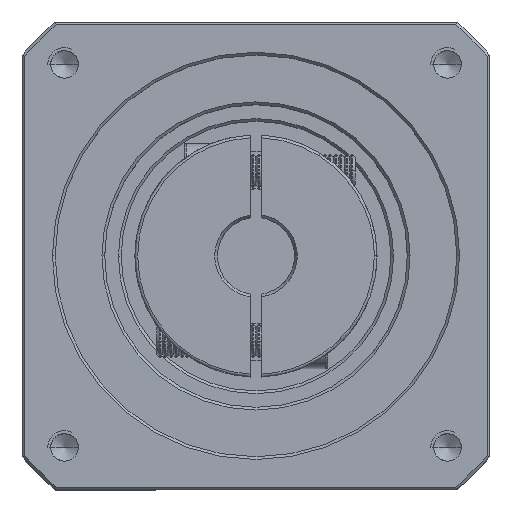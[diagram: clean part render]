
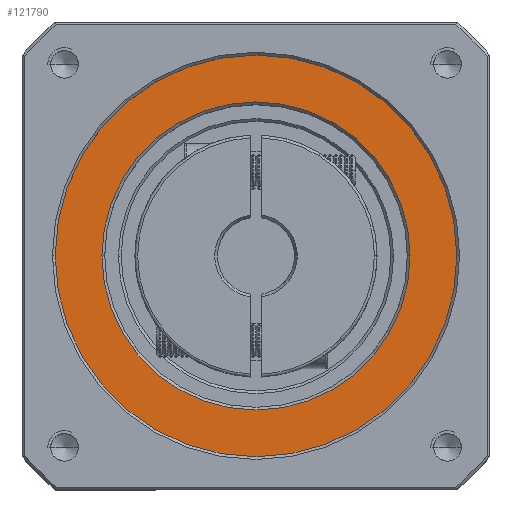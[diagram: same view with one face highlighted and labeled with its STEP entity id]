
A CAD part, top view. The second image highlights one B-rep face of the part: STEP entity #121790.
In plain terms, the highlighted planar face has unit normal (0, 0, 1).
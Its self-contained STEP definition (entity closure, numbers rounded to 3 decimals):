
#293 = CIRCLE ( 'NONE', #24646, 36.5 ) ;
#2892 = CARTESIAN_POINT ( 'NONE',  ( -95.807, 41.931, 45.967 ) ) ;
#7976 = VERTEX_POINT ( 'NONE', #29941 ) ;
#12341 = VERTEX_POINT ( 'NONE', #117105 ) ;
#12843 = DIRECTION ( 'NONE',  ( 0., 0., -1. ) ) ;
#12889 = DIRECTION ( 'NONE',  ( 1., 0., 0. ) ) ;
#15908 = AXIS2_PLACEMENT_3D ( 'NONE', #22276, #91034, #32223 ) ;
#16465 = CARTESIAN_POINT ( 'NONE',  ( -95.807, 41.931, 45.967 ) ) ;
#22276 = CARTESIAN_POINT ( 'NONE',  ( -95.807, 41.931, 45.967 ) ) ;
#22383 = FACE_BOUND ( 'NONE', #89790, .T. ) ;
#24135 = EDGE_CURVE ( 'NONE', #28292, #7976, #28439, .T. ) ;
#24646 = AXIS2_PLACEMENT_3D ( 'NONE', #2892, #71898, #12889 ) ;
#26420 = DIRECTION ( 'NONE',  ( 1., 0., 0. ) ) ;
#27262 = EDGE_CURVE ( 'NONE', #7976, #28292, #293, .T. ) ;
#28292 = VERTEX_POINT ( 'NONE', #57931 ) ;
#28439 = CIRCLE ( 'NONE', #15908, 36.5 ) ;
#29941 = CARTESIAN_POINT ( 'NONE',  ( -132.307, 41.931, 45.967 ) ) ;
#31341 = ORIENTED_EDGE ( 'NONE', *, *, #61083, .T. ) ;
#32223 = DIRECTION ( 'NONE',  ( 1., 0., 0. ) ) ;
#32491 = AXIS2_PLACEMENT_3D ( 'NONE', #16465, #85269, #26420 ) ;
#33494 = EDGE_LOOP ( 'NONE', ( #84644, #78672 ) ) ;
#48386 = CARTESIAN_POINT ( 'NONE',  ( -95.807, 41.931, 45.967 ) ) ;
#50320 = AXIS2_PLACEMENT_3D ( 'NONE', #48386, #116782, #58223 ) ;
#54007 = VERTEX_POINT ( 'NONE', #57474 ) ;
#57474 = CARTESIAN_POINT ( 'NONE',  ( -123.807, 41.931, 45.967 ) ) ;
#57931 = CARTESIAN_POINT ( 'NONE',  ( -59.307, 41.931, 45.967 ) ) ;
#58223 = DIRECTION ( 'NONE',  ( 1., 0., 0. ) ) ;
#61083 = EDGE_CURVE ( 'NONE', #12341, #54007, #118058, .T. ) ;
#61856 = EDGE_CURVE ( 'NONE', #54007, #12341, #124101, .T. ) ;
#71853 = CARTESIAN_POINT ( 'NONE',  ( -95.807, 41.931, 45.967 ) ) ;
#71898 = DIRECTION ( 'NONE',  ( 0., 0., 1. ) ) ;
#74716 = FACE_OUTER_BOUND ( 'NONE', #33494, .T. ) ;
#78672 = ORIENTED_EDGE ( 'NONE', *, *, #27262, .T. ) ;
#81671 = DIRECTION ( 'NONE',  ( 1., 0., 0. ) ) ;
#81858 = ORIENTED_EDGE ( 'NONE', *, *, #61856, .T. ) ;
#84644 = ORIENTED_EDGE ( 'NONE', *, *, #24135, .T. ) ;
#85269 = DIRECTION ( 'NONE',  ( 0., 0., -1. ) ) ;
#88301 = AXIS2_PLACEMENT_3D ( 'NONE', #71853, #12843, #81671 ) ;
#89790 = EDGE_LOOP ( 'NONE', ( #31341, #81858 ) ) ;
#91034 = DIRECTION ( 'NONE',  ( 0., 0., 1. ) ) ;
#116782 = DIRECTION ( 'NONE',  ( 0., 0., 1. ) ) ;
#117105 = CARTESIAN_POINT ( 'NONE',  ( -67.807, 41.931, 45.967 ) ) ;
#118058 = CIRCLE ( 'NONE', #88301, 28. ) ;
#121790 = ADVANCED_FACE ( 'NONE', ( #74716, #22383 ), #126212, .T. ) ;
#124101 = CIRCLE ( 'NONE', #32491, 28. ) ;
#126212 = PLANE ( 'NONE',  #50320 ) ;
